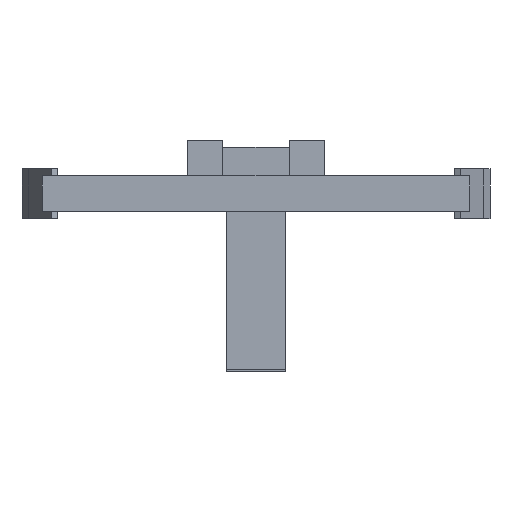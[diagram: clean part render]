
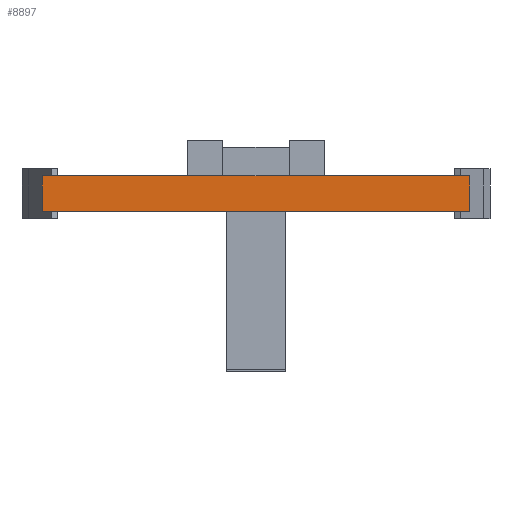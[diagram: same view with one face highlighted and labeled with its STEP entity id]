
A CAD part, front view. The second image highlights one B-rep face of the part: STEP entity #8897.
In plain terms, the highlighted planar face has unit normal (0, -1, 0).
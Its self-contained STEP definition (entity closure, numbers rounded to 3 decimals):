
#5=DIRECTION('',(1.,0.,0.));
#6=VECTOR('',#5,56.);
#7=CARTESIAN_POINT('',(-28.,125.,0.));
#8=LINE('',#7,#6);
#1157=DIRECTION('',(-1.,0.,0.));
#1158=VECTOR('',#1157,152.);
#1159=CARTESIAN_POINT('',(-28.,125.,0.));
#1160=LINE('',#1159,#1158);
#1185=DIRECTION('',(-1.,0.,0.));
#1186=VECTOR('',#1185,152.);
#1187=CARTESIAN_POINT('',(180.,125.,0.));
#1188=LINE('',#1187,#1186);
#1229=DIRECTION('',(0.,0.,-1.));
#1230=VECTOR('',#1229,30.);
#1231=CARTESIAN_POINT('',(-180.,125.,0.));
#1232=LINE('',#1231,#1230);
#1249=DIRECTION('',(-1.,0.,0.));
#1250=VECTOR('',#1249,360.);
#1251=CARTESIAN_POINT('',(180.,125.,-30.));
#1252=LINE('',#1251,#1250);
#1281=DIRECTION('',(0.,0.,-1.));
#1282=VECTOR('',#1281,30.);
#1283=CARTESIAN_POINT('',(180.,125.,0.));
#1284=LINE('',#1283,#1282);
#5513=CARTESIAN_POINT('',(180.,125.,-30.));
#5514=CARTESIAN_POINT('',(-180.,125.,-30.));
#5515=VERTEX_POINT('',#5513);
#5516=VERTEX_POINT('',#5514);
#5521=CARTESIAN_POINT('',(180.,125.,0.));
#5522=VERTEX_POINT('',#5521);
#5523=CARTESIAN_POINT('',(-180.,125.,0.));
#5524=VERTEX_POINT('',#5523);
#5529=CARTESIAN_POINT('',(28.,125.,0.));
#5530=VERTEX_POINT('',#5529);
#5579=CARTESIAN_POINT('',(-28.,125.,0.));
#5580=VERTEX_POINT('',#5579);
#8883=CARTESIAN_POINT('',(180.,125.,0.));
#8884=DIRECTION('',(0.,-1.,0.));
#8885=DIRECTION('',(-1.,0.,0.));
#8886=AXIS2_PLACEMENT_3D('',#8883,#8884,#8885);
#8887=PLANE('',#8886);
#8888=ORIENTED_EDGE('',*,*,#8743,.F.);
#8890=ORIENTED_EDGE('',*,*,#8889,.T.);
#8891=ORIENTED_EDGE('',*,*,#8865,.T.);
#8892=ORIENTED_EDGE('',*,*,#8849,.F.);
#8893=ORIENTED_EDGE('',*,*,#8721,.F.);
#8894=ORIENTED_EDGE('',*,*,#7308,.T.);
#8895=EDGE_LOOP('',(#8888,#8890,#8891,#8892,#8893,#8894));
#8896=FACE_OUTER_BOUND('',#8895,.F.);
#8897=ADVANCED_FACE('',(#8896),#8887,.T.);
#7308=EDGE_CURVE('',#5580,#5530,#8,.T.);
#8721=EDGE_CURVE('',#5580,#5524,#1160,.T.);
#8743=EDGE_CURVE('',#5522,#5530,#1188,.T.);
#8849=EDGE_CURVE('',#5524,#5516,#1232,.T.);
#8865=EDGE_CURVE('',#5515,#5516,#1252,.T.);
#8889=EDGE_CURVE('',#5522,#5515,#1284,.T.);
